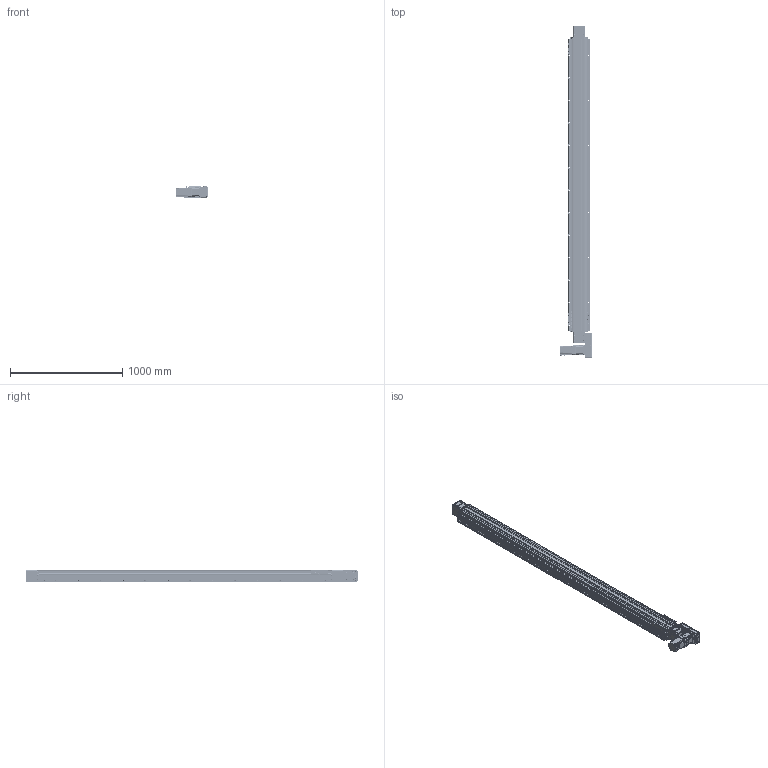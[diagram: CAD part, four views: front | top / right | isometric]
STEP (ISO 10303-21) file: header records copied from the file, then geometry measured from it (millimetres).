
FILE_DESCRIPTION(/* description */ (''),/* implementation_level */ '2;1');
FILE_NAME(/* name */ '\\192.168.0.160\disk1\HAN SHIN Master\B-설계부문\C-표준\B-2024년\BC02-표준도면\+로봇 개선표준도면\홈페이지 표준 도면\홈페이지 최종 작업 폴더\3D\HSB\HSB160\HSB160-R7G-N-2400-L.stp',/* time_stamp */ '2025-01-09T16:24:59+09:00',/* author */ ('user'),/* organization */ (''),/* preprocessor_version */ 'ST-DEVELOPER v18.1',/* originating_system */ 'Autodesk Inventor 2022',/* authorisation */ '');
FILE_SCHEMA (('AUTOMOTIVE_DESIGN { 1 0 10303 214 3 1 1 }'));
Products named in the file (42): HSB160-R7G-N-0500-L; BASE; HSB160 TABLE (TEST); FORNT HOUSUNG-1 (Connecting); UPCOVER; HSB160 COVER-1; REAR HOUSUNG-1---; HSB160 REAR SHAFT-2; REAR SHAFT--2; 6004ZZ; 6004ZZ Outer ring; 6004ZZ Shield1; 6004ZZ Inner ring; 6004ZZ Ball; 6004ZZ Shield2; STOPPER3; TENSION PLATE; HSB160 ARC COVER; hsr_ftht_A-M6F_grease_nipple_joint; NIPPLE CAP(신규); SIDE COVER; HSB160 SHAFT-1; HSB160 BEARING OVER; HSB160 END COVER; HR120 SENSOR DOG; SENSOR BRK(EE-SX674A); EE_SX674A; hg-kr73_; PGX90-H-1_3; 6206ZZ; 6206ZZ Outer ring; 6206ZZ Shield1; 6206ZZ Inner ring; 6206ZZ Ball; 6206ZZ Shield2; R MOTOR PLATE ASSY; HR160 400W LR BELT COVER; HR180 ACRYL COVER - 1; HR180 ACRYL COVER - 1_1; 750W MOTOR PLATE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
Assembly tree (87 placements, depth 3):
  HSB160-R7G-N-0500-L
    BASE
    HSB160 TABLE (TEST)
    FORNT HOUSUNG-1 (Connecting)
    6206ZZ  x2
      6206ZZ Outer ring
      6206ZZ Shield1
      6206ZZ Inner ring
      6206ZZ Ball
      6206ZZ Shield2
    UPCOVER
    HSB160 COVER-1  x2
    REAR HOUSUNG-1---
    6004ZZ  x2
      6004ZZ Outer ring
      6004ZZ Shield1
      6004ZZ Inner ring
      6004ZZ Ball
      6004ZZ Shield2
    HSB160 REAR SHAFT-2
    REAR SHAFT--2
    TENSION PLATE  x2
    HSB160 ARC COVER  x4
    STOPPER3  x4
    SIDE COVER  x2
    hsr_ftht_A-M6F_grease_nipple_joint  x4
    NIPPLE CAP(신규)  x4
    HSB160 SHAFT-1
    HSB160 BEARING OVER
    HSB160 END COVER
    SENSOR BRK(EE-SX674A)  x3
    EE_SX674A  x3
    HR120 SENSOR DOG
    hg-kr73_
    PGX90-H-1_3
    R MOTOR PLATE ASSY
      HR160 400W LR BELT COVER
      HR180 ACRYL COVER - 1
      HR180 ACRYL COVER - 1_1
      HR180 ACRYL COVER - 1_2  x2
      750W MOTOR PLATE
      HSB160 LR MOTOR PLATE_대칭도
Bounding box: 284.5 x 2953.5 x 107 mm (x, y, z)
Volume: 16611443.5 mm3; surface area: 4178480.7 mm2
Topology: 131 solids, 133 shells, 6649 faces, 18325 edges, 12044 vertices
Faces by surface type: plane 4649, cylinder 1441, cone 387, sphere 88, torus 59, bspline 25
Full cylindrical faces by diameter (mm): 2.013 x2, 2.459 x52, 3 x20, 3.242 x50, 3.4 x20, 3.5 x6, 4.134 x18, 4.2 x4, 4.5 x40, 4.917 x86, 5 x44, 5.1 x1, 5.5 x25, 5.6 x4, 5.9 x4, 6 x23, 6.5 x9, 6.6 x18, 6.8 x9, 7 x32, 7.6 x4, 8 x5, 8.376 x28, 8.433 x2, 9 x4, 9.5 x31, 10 x5, 11 x28, 15 x8, 18.5 x2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
Entity records: 124403 total; most frequent: CARTESIAN_POINT 23460, DIRECTION 20755, ORIENTED_EDGE 20114, EDGE_CURVE 10057, AXIS2_PLACEMENT_3D 7086, VERTEX_POINT 6651, LINE 6583, VECTOR 6583
